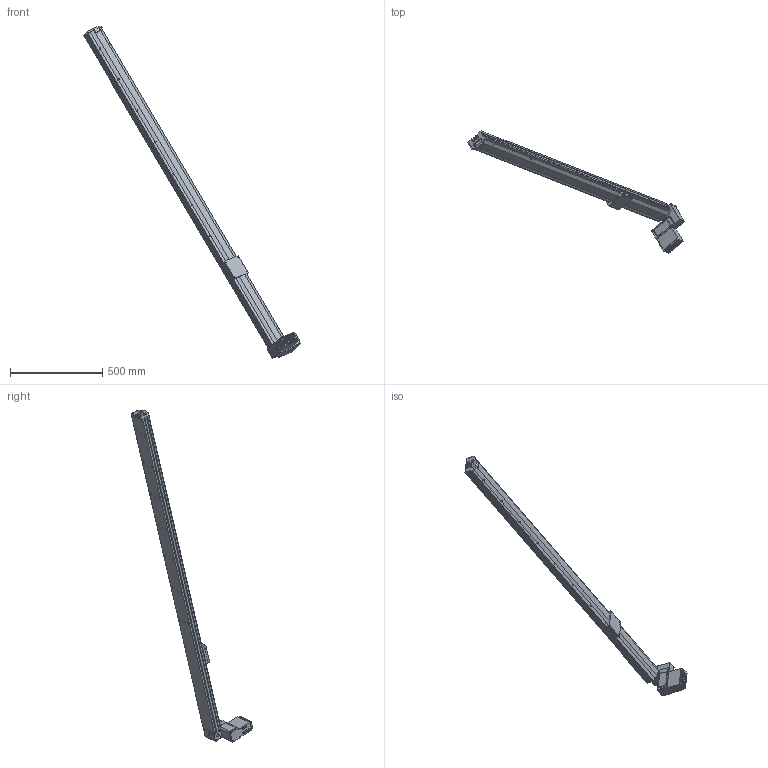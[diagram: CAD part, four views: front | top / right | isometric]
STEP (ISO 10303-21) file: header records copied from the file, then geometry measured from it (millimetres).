
FILE_DESCRIPTION (( 'STEP AP203' ), '1' );
FILE_NAME ('S10 CBH RT S2000.STEP', '2012-10-01T11:53:01', ( '' ), ( '' ), 'SwSTEP 2.0', 'SolidWorks 2010', '' );
FILE_SCHEMA (( 'CONFIG_CONTROL_DESIGN' ));
Length unit declared in the file: millimetre
Products named in the file (9): plaque de bout; moteur M3_1; palette tbh; S10 CBH RT S2000; embout; moteur M3; Plaque racord_; axe 2000; MOTEUR GMI 61 
Assembly tree (7 placements, depth 3):
  S10 CBH RT S2000
    palette tbh
    MOTEUR GMI 61 
    axe 2000
    plaque de bout
      Plaque racord_
      moteur M3_1
    embout
  moteur M3
Bounding box: 1173.4 x 658.38 x 1794.78 mm (x, y, z)
Volume: 11359730.2 mm3; surface area: 1108299.9 mm2
Topology: 5 solids, 18 shells, 777 faces, 2024 edges, 1272 vertices
Faces by surface type: plane 381, cylinder 287, cone 74, torus 23, bspline 8, sphere 4
Entity records: 26937 total; most frequent: CARTESIAN_POINT 6917, DIRECTION 4047, ORIENTED_EDGE 3800, EDGE_CURVE 1950, AXIS2_PLACEMENT_3D 1398, VERTEX_POINT 1272, VECTOR 1251, LINE 1251
